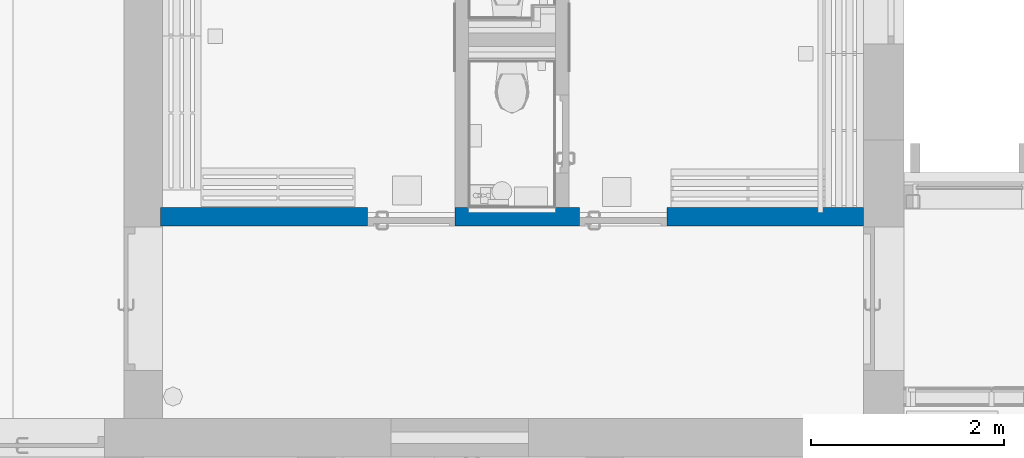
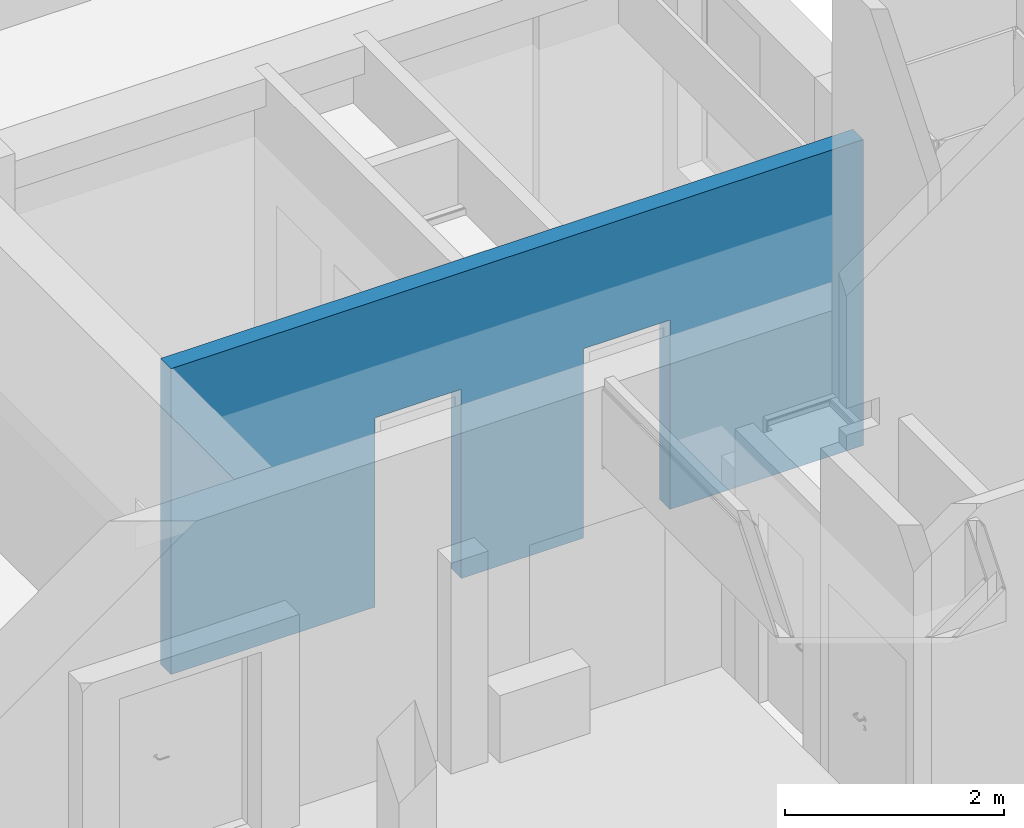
# One storey, part 92 of 301: 1 wall, 2 openings.
"""IFC2X3 building model written with IfcOpenShell, lengths in millimetres."""

from ifc_helpers import new_model, entity, si_unit, converted_unit, derived_unit, money_unit, direction, frame, origin_with_axes, place, context, subcontext, project, spatial, faceted_brep, material, type_object, element, save


model = new_model("IFC2X3")

# Units and contexts
model_context = context("Model", 3, precision=0.01, world=origin_with_axes(), true_north=direction((0.0, 1.0)))
body_context = subcontext(model_context, "Body", "Model", "MODEL_VIEW")
ifc_project = project(units=[si_unit("LENGTHUNIT", "METRE", prefix="MILLI"), si_unit("AREAUNIT", "SQUARE_METRE"), si_unit("VOLUMEUNIT", "CUBIC_METRE"), converted_unit("PLANEANGLEUNIT", "DEGREE", entity("IfcPlaneAngleMeasure", 0.0174532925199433), si_unit("PLANEANGLEUNIT", "RADIAN"), dimensions=[0, 0, 0, 0, 0, 0, 0]), money_unit("EUR"), converted_unit("TIMEUNIT", "Year", entity("IfcTimeMeasure", 31557600.0), si_unit("TIMEUNIT", "SECOND"), dimensions=[0, 0, 1, 0, 0, 0, 0]), si_unit("MASSUNIT", "GRAM", prefix="KILO"), si_unit("THERMODYNAMICTEMPERATUREUNIT", "DEGREE_CELSIUS"), si_unit("LUMINOUSINTENSITYUNIT", "LUMEN"), si_unit("ENERGYUNIT", "JOULE", prefix="MEGA"), derived_unit("THERMALCONDUCTANCEUNIT", [(si_unit("POWERUNIT", "WATT"), 1), (si_unit("LENGTHUNIT", "METRE"), -1), (si_unit("THERMODYNAMICTEMPERATUREUNIT", "KELVIN"), -1)]), derived_unit("SPECIFICHEATCAPACITYUNIT", [(si_unit("ENERGYUNIT", "JOULE"), 1), (si_unit("MASSUNIT", "GRAM", prefix="KILO"), -1), (si_unit("THERMODYNAMICTEMPERATUREUNIT", "KELVIN"), -1)]), derived_unit("MASSDENSITYUNIT", [(si_unit("MASSUNIT", "GRAM", prefix="KILO"), 1), (si_unit("VOLUMEUNIT", "CUBIC_METRE"), -1)])], contexts=[model_context])

# Site, building, storey
site_placement = place(None, frame((0.0, 0.0, 8650.0), z_axis=(0.0, 0.0, 1.0), x_axis=(1.0, 0.0, 0.0)))
site = spatial("IfcSite", under=ifc_project, at=site_placement, Name="43301:001:0844", CompositionType="ELEMENT")
building_placement = place(site_placement, origin_with_axes())
building = spatial("IfcBuilding", under=site, at=building_placement, Name="Kuressaare Ametikooli tuulikute mehaanikute õppekorpus", CompositionType="ELEMENT")
storey_placement = place(building_placement, origin_with_axes())
storey = spatial("IfcBuildingStorey", under=building, at=storey_placement, Name="1.korrus", CompositionType="ELEMENT", Elevation=0.0)

# Wall, openings
ifc_material = material(Name="Betoonplokk")
wall_type = type_object("IfcWallType", Name="SS-1.1 190", PredefinedType="NOTDEFINED")
wall_placement = place(storey_placement, frame((95927.90111654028, 28183.06892365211, 0.0), z_axis=(0.0, 0.0, 1.0), x_axis=(1.0, 0.0, 0.0)))
wall = element("IfcWall", 1, at=wall_placement, inside=storey, type_object=wall_type, material=ifc_material, Name="Sisesein", context=body_context, shape_type="Brep", body=[
    faceted_brep([(4349.805547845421, 190.0000000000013, 2110.0), (4349.805547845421, 190.0000000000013, 0.0), (3059.805547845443, 190.0000000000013, 0.0), (3059.805547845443, 190.0000000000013, 2110.0), (2149.805547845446, 190.0000000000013, 2110.0), (2149.805547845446, 190.0000000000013, 0.0), (0.0, 190.0000000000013, 0.0), (0.0, 190.0000000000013, 3410.0), (7299.61109049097, 190.0000000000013, 3410.0), (7299.61109049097, 190.0000000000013, 0.0), (5259.805547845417, 190.0000000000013, 0.0), (5259.805547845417, 190.0000000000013, 2110.0), (3059.805547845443, 190.0000000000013, 2600.0), (3059.805547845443, 190.0000000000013, 2650.0), (20.00000000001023, 190.0000000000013, 2650.0), (20.00000000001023, 190.0000000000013, 2600.0), (4099.804801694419, 190.0000000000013, 2600.0), (4099.804801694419, 190.0000000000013, 2650.0), (3199.804801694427, 190.0000000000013, 2650.0), (3199.804801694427, 190.0000000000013, 2600.0), (6879.611095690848, 190.0000000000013, 2600.0), (6879.611095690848, 190.0000000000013, 2650.0), (4239.805547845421, 190.0000000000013, 2650.0), (4239.805547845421, 190.0000000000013, 2600.0), (4349.805547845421, 0.0, 2110.0), (4349.805547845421, 0.0, 0.0), (3059.805547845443, 0.0, 0.0), (3059.805547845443, 0.0, 2110.0), (2149.805547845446, 0.0, 2110.0), (2149.805547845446, 0.0, 0.0), (0.0, 0.0, 0.0), (0.0, 0.0, 3410.0), (7299.61109049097, 0.0, 3410.0), (7299.61109049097, 0.0, 0.0), (5259.805547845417, 0.0, 0.0), (5259.805547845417, 0.0, 2110.0), (3059.805547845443, 140.0000000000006, 2600.0), (3059.805547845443, 140.0000000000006, 2650.0), (20.00000000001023, 140.0000000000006, 2650.0), (20.00000000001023, 140.0000000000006, 2600.0), (4099.804801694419, 140.0000000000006, 2600.0), (4099.804801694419, 140.0000000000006, 2650.0), (3199.804801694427, 140.0000000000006, 2650.0), (3199.804801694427, 140.0000000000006, 2600.0), (6879.611095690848, 140.0000000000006, 2600.0), (6879.611095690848, 140.0000000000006, 2650.0), (4239.805547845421, 140.0000000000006, 2650.0), (4239.805547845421, 140.0000000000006, 2600.0)], [[[0, 1, 2, 3, 4, 5, 6, 7, 8, 9, 10, 11], [12, 13, 14, 15], [16, 17, 18, 19], [20, 21, 22, 23]], [[1, 0, 24, 25]], [[1, 25, 26, 2]], [[2, 26, 27, 3]], [[3, 27, 28, 4]], [[4, 28, 29, 5]], [[29, 30, 6, 5]], [[31, 7, 6, 30]], [[32, 8, 7, 31]], [[32, 33, 9, 8]], [[34, 10, 9, 33]], [[11, 10, 34, 35]], [[0, 11, 35, 24]], [[12, 36, 37, 13]], [[13, 37, 38, 14]], [[14, 38, 39, 15]], [[15, 39, 36, 12]], [[16, 40, 41, 17]], [[17, 41, 42, 18]], [[18, 42, 43, 19]], [[19, 43, 40, 16]], [[20, 44, 45, 21]], [[21, 45, 46, 22]], [[22, 46, 47, 23]], [[23, 47, 44, 20]], [[35, 34, 33, 32, 31, 30, 29, 28, 27, 26, 25, 24]], [[38, 37, 36, 39]], [[42, 41, 40, 43]], [[46, 45, 44, 47]]]),
])
opening_1_placement = place(wall_placement, frame((4804.805547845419, 0.0, 0.0), z_axis=(0.0, 0.0, 1.0), x_axis=(1.0, 0.0, 0.0)))
element("IfcOpeningElement", 2, at=opening_1_placement, cuts=wall, Name="TU9,EI60", context=body_context, shape_type="Brep", body=[
    faceted_brep([(454.9999999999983, 191.0000000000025, 2110.0), (454.9999999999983, 191.0000000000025, 0.0), (-454.9999999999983, 191.0000000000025, 0.0), (-454.9999999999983, 191.0000000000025, 2110.0), (454.9999999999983, -1.000000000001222, 2110.0), (454.9999999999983, -1.000000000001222, 0.0), (-454.9999999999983, -1.000000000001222, 0.0), (-454.9999999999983, -1.000000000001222, 2110.0)], [[[0, 1, 2, 3]], [[4, 5, 1, 0]], [[5, 6, 2, 1]], [[6, 7, 3, 2]], [[7, 4, 0, 3]], [[6, 5, 4, 7]]]),
])
opening_2_placement = place(wall_placement, frame((2604.805547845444, 0.0, 0.0), z_axis=(0.0, 0.0, 1.0), x_axis=(1.0, 0.0, 0.0)))
element("IfcOpeningElement", 3, at=opening_2_placement, cuts=wall, Name="TU9,EI60", context=body_context, shape_type="Brep", body=[
    faceted_brep([(454.9999999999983, 191.0000000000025, 2110.0), (454.9999999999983, 191.0000000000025, 0.0), (-454.9999999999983, 191.0000000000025, 0.0), (-454.9999999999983, 191.0000000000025, 2110.0), (454.9999999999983, -1.000000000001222, 2110.0), (454.9999999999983, -1.000000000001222, 0.0), (-454.9999999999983, -1.000000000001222, 0.0), (-454.9999999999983, -1.000000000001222, 2110.0)], [[[0, 1, 2, 3]], [[4, 5, 1, 0]], [[5, 6, 2, 1]], [[6, 7, 3, 2]], [[7, 4, 0, 3]], [[6, 5, 4, 7]]]),
])

save(model, "model.ifc")
